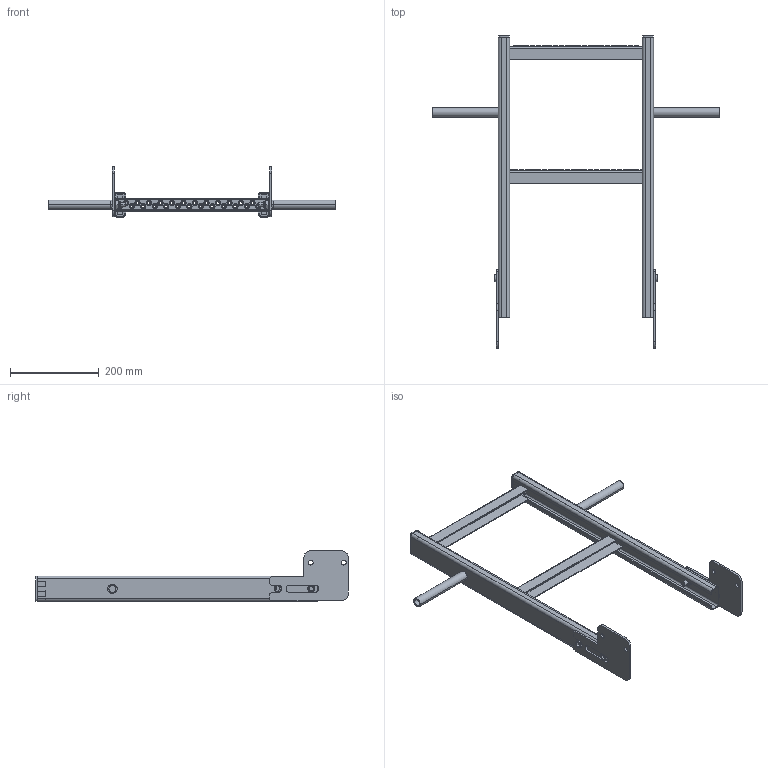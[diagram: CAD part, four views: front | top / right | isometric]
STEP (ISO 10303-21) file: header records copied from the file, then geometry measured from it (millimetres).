
FILE_DESCRIPTION((''),'2;1');
FILE_NAME('105416-600','2018-11-22T',('stat'),('HUBER SE'),'PRO/ENGINEER BY PARAMETRIC TECHNOLOGY CORPORATION, 2017170','PRO/ENGINEER BY PARAMETRIC TECHNOLOGY CORPORATION, 2017170','');
FILE_SCHEMA(('AUTOMOTIVE_DESIGN { 1 0 10303 214 1 1 1 1 }'));
Length unit declared in the file: millimetre
Products named in the file (1): 105416-600
Bounding box: 650 x 705.5 x 114.5 mm (x, y, z)
Volume: 681923.1 mm3; surface area: 503243.6 mm2
Topology: 4 solids, 4 shells, 771 faces, 1810 edges, 1112 vertices
Faces by surface type: plane 255, torus 208, cone 204, cylinder 104
Entity records: 24429 total; most frequent: DIRECTION 4373, CARTESIAN_POINT 4112, ORIENTED_EDGE 3620, EDGE_CURVE 1810, AXIS2_PLACEMENT_3D 1808, VERTEX_POINT 1112, CIRCLE 1032, EDGE_LOOP 942
